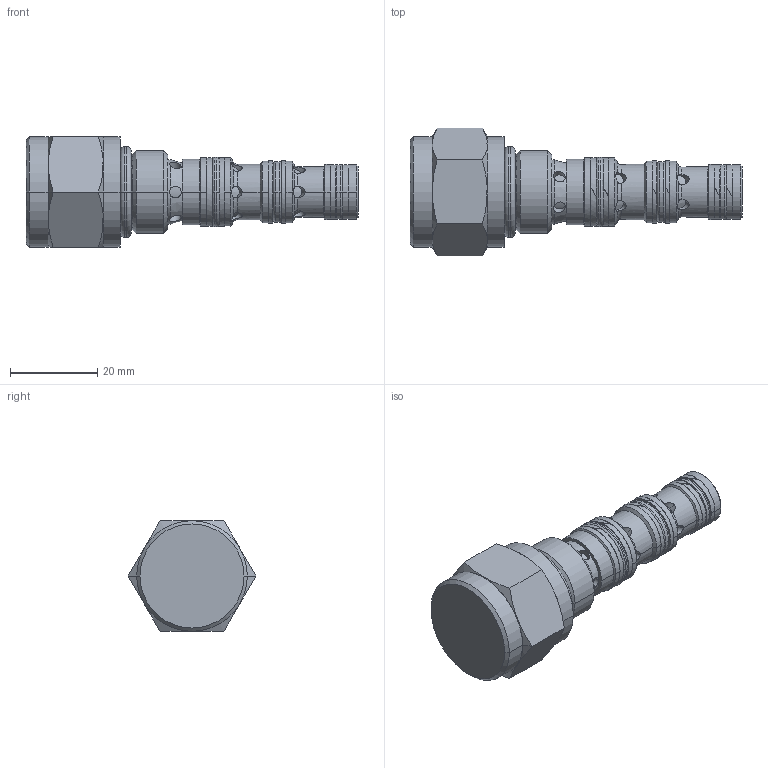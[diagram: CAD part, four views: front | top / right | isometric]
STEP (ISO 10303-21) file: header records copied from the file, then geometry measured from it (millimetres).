
FILE_DESCRIPTION((''),'2;1');
FILE_NAME('PDCV-08-C-_-OUT1','2015-12-18T',('torrese'),(''),'PRO/ENGINEER BY PARAMETRIC TECHNOLOGY CORPORATION, 2015070','PRO/ENGINEER BY PARAMETRIC TECHNOLOGY CORPORATION, 2015070','');
FILE_SCHEMA(('CONFIG_CONTROL_DESIGN','GEOMETRIC_VALIDATION_PROPERTIES_MIM'));
Length unit declared in the file: inch
Products named in the file (1): PDCV-08-C-_-OUT1
Bounding box: 76.2 x 29.33 x 25.4 mm (x, y, z)
Volume: 20962.6 mm3; surface area: 6049.8 mm2
Topology: 1 solids, 1 shells, 227 faces, 561 edges, 346 vertices
Faces by surface type: cylinder 108, plane 45, cone 39, torus 35
Entity records: 21399 total; most frequent: CARTESIAN_POINT 12922, ORIENTED_EDGE 1122, DIRECTION 1064, PRESENTATION_STYLE_ASSIGNMENT 751, STYLED_ITEM 562, CURVE_STYLE 561, EDGE_CURVE 561, AXIS2_PLACEMENT_3D 452
